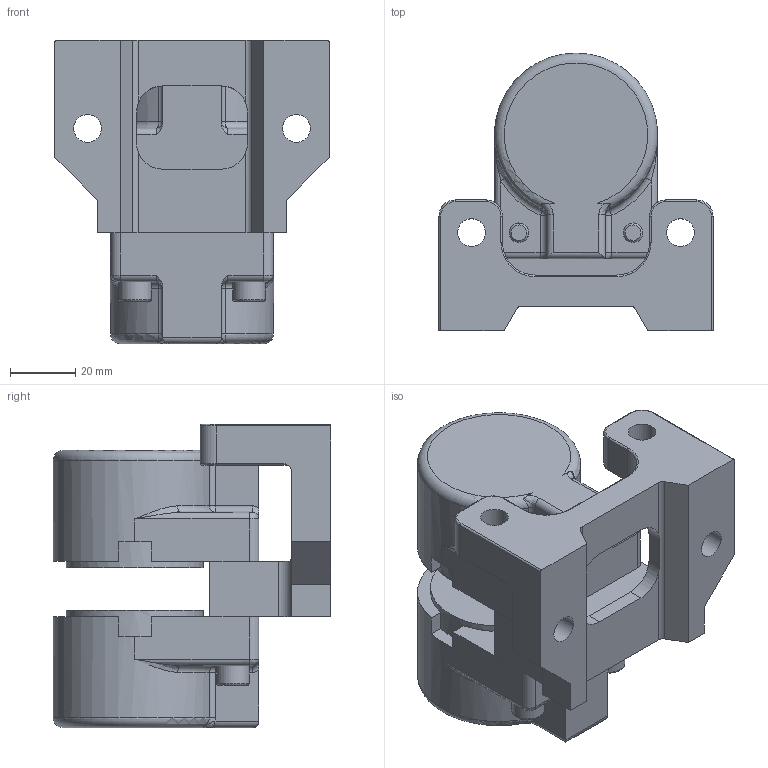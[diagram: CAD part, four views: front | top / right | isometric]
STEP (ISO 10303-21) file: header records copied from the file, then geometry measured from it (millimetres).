
FILE_DESCRIPTION(/* description */ ('','CAx-IF Rec.Pracs.---Representation and Presentation of Product Manufacturing Information (PMI)---4.0---2014-10-13'),/* implementation_level */ '2;1');
FILE_NAME(/* name */ 'X:\INVENTOR\DISEGNI\19_Pinze\STEP x Sito\PNEUM-POSITIVE\19_16_M045_03 PPV045_12,7.stp',/* time_stamp */ '2018-02-16T16:45:14+01:00',/* author */ ('stefano'),/* organization */ (''),/* preprocessor_version */ 'ST-DEVELOPER v17',/* originating_system */ 'Autodesk Inventor 2018',/* authorisation */ '');
FILE_SCHEMA (('AP242_MANAGED_MODEL_BASED_3D_ENGINEERING_MIM_LF { 1 0 10303 442 1 1 4 }'));
Length unit declared in the file: millimetre
Products named in the file (1): 19_16_M045_03 PPV045_12,7_Substitute_2
Bounding box: 84 x 85 x 93 mm (x, y, z)
Volume: 176531.2 mm3; surface area: 56493.8 mm2
Topology: 2 solids, 2 shells, 290 faces, 774 edges, 502 vertices
Faces by surface type: plane 127, cylinder 99, torus 31, bspline 16, cone 13, sphere 4
Full cylindrical faces by diameter (mm): 4 x2, 5 x3, 6 x4, 8.5 x4, 8.566 x1, 10 x5, 11 x2, 11.5 x2, 15 x2, 15.5 x2, 28 x2, 42 x6, 44.5 x2
Entity records: 10094 total; most frequent: CARTESIAN_POINT 2507, DIRECTION 1566, ORIENTED_EDGE 1522, EDGE_CURVE 761, AXIS2_PLACEMENT_3D 612, VERTEX_POINT 502, LINE 342, VECTOR 342
